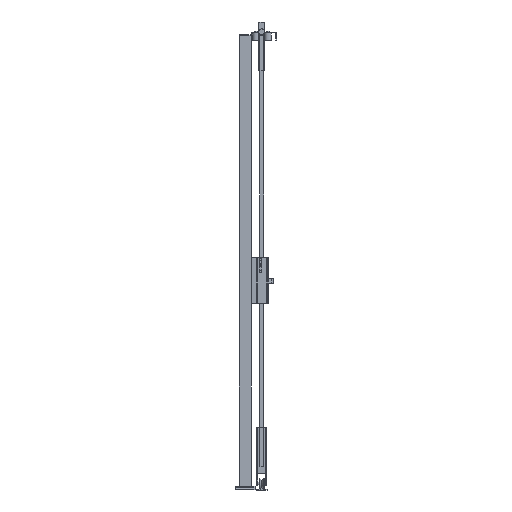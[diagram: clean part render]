
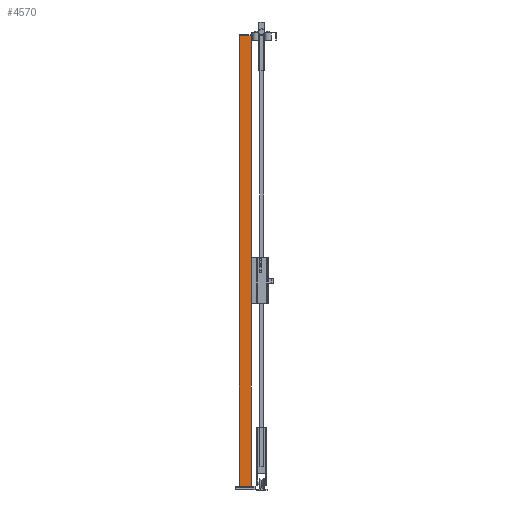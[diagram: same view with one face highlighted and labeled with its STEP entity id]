
A CAD part, left-side view. The second image highlights one B-rep face of the part: STEP entity #4570.
In plain terms, the highlighted planar face has unit normal (-1, 0, 0) as drawn and (0, 1, 0) by its records, which use the part's own axes.
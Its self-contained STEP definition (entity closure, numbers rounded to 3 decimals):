
#503=FACE_OUTER_BOUND('',#838,.T.);
#838=EDGE_LOOP('',(#2851,#2852,#2853,#2854));
#1214=VERTEX_POINT('',#9468);
#1215=VERTEX_POINT('',#9470);
#1217=VERTEX_POINT('',#9476);
#1220=VERTEX_POINT('',#9481);
#1864=EDGE_CURVE('',#1214,#1215,#5297,.T.);
#1870=EDGE_CURVE('',#1220,#1217,#5303,.T.);
#1873=EDGE_CURVE('',#1215,#1220,#5306,.T.);
#1874=EDGE_CURVE('',#1214,#1217,#5307,.T.);
#2851=ORIENTED_EDGE('',*,*,#1874,.T.);
#2852=ORIENTED_EDGE('',*,*,#1870,.F.);
#2853=ORIENTED_EDGE('',*,*,#1873,.F.);
#2854=ORIENTED_EDGE('',*,*,#1864,.F.);
#4281=PLANE('',#6751);
#4570=ADVANCED_FACE('',(#503),#4281,.F.);
#5297=LINE('',#9471,#6068);
#5303=LINE('',#9483,#6074);
#5306=LINE('',#9488,#6077);
#5307=LINE('',#9490,#6078);
#6068=VECTOR('',#7493,1.);
#6074=VECTOR('',#7501,1.);
#6077=VECTOR('',#7508,1.);
#6078=VECTOR('',#7511,1.);
#6751=AXIS2_PLACEMENT_3D('',#9489,#7509,#7510);
#7493=DIRECTION('',(-1.,0.,0.));
#7501=DIRECTION('',(1.,0.,0.));
#7508=DIRECTION('',(0.,0.,-1.));
#7509=DIRECTION('center_axis',(0.,-1.,0.));
#7510=DIRECTION('ref_axis',(0.,0.,-1.));
#7511=DIRECTION('',(0.,0.,-1.));
#9468=CARTESIAN_POINT('',(30.,30.,2320.));
#9470=CARTESIAN_POINT('',(-30.,30.,2320.));
#9471=CARTESIAN_POINT('',(0.,30.,2320.));
#9476=CARTESIAN_POINT('',(30.,30.,20.));
#9481=CARTESIAN_POINT('',(-30.,30.,20.));
#9483=CARTESIAN_POINT('',(0.,30.,20.));
#9488=CARTESIAN_POINT('',(-30.,30.,1170.));
#9489=CARTESIAN_POINT('Origin',(0.,30.,
1170.));
#9490=CARTESIAN_POINT('',(30.,30.,1170.));
